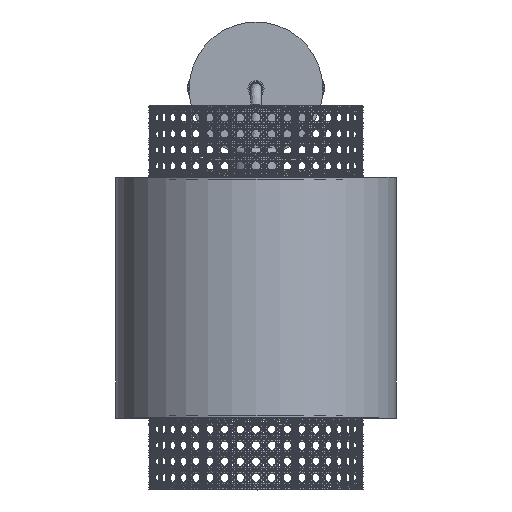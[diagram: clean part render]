
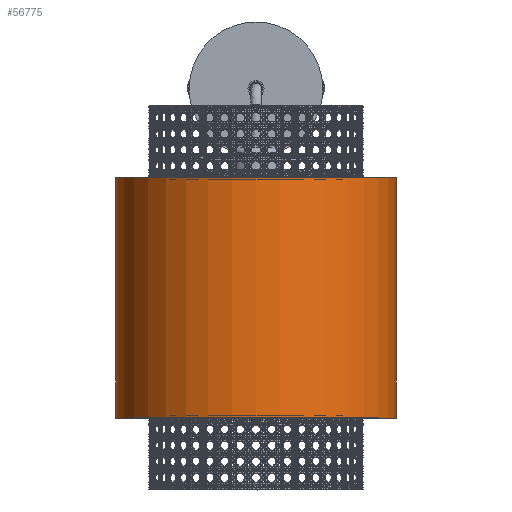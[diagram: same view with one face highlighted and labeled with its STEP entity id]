
A CAD part, top view. The second image highlights one B-rep face of the part: STEP entity #56775.
In plain terms, the highlighted cylindrical face has radius 105 mm (diameter 210 mm), a full revolution.
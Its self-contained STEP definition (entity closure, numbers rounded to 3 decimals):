
#7639=LINE('',#162003,#10107);
#10107=VECTOR('',#71685,105.);
#12071=CYLINDRICAL_SURFACE('',#61886,105.);
#14588=FACE_OUTER_BOUND('',#18282,.T.);
#18282=EDGE_LOOP('',(#45991,#45992,#45993,#45994));
#21572=CIRCLE('',#61882,105.);
#21575=CIRCLE('',#61887,105.);
#25842=VERTEX_POINT('',#161993);
#25845=VERTEX_POINT('',#162002);
#33052=EDGE_CURVE('',#25842,#25842,#21572,.T.);
#33056=EDGE_CURVE('',#25842,#25845,#7639,.T.);
#33057=EDGE_CURVE('',#25845,#25845,#21575,.T.);
#45991=ORIENTED_EDGE('',*,*,#33052,.T.);
#45992=ORIENTED_EDGE('',*,*,#33056,.T.);
#45993=ORIENTED_EDGE('',*,*,#33057,.T.);
#45994=ORIENTED_EDGE('',*,*,#33056,.F.);
#56775=ADVANCED_FACE('',(#14588),#12071,.T.);
#61882=AXIS2_PLACEMENT_3D('',#161994,#71674,#71675);
#61886=AXIS2_PLACEMENT_3D('',#162001,#71683,#71684);
#61887=AXIS2_PLACEMENT_3D('',#162004,#71686,#71687);
#71674=DIRECTION('center_axis',(0.,-1.,0.));
#71675=DIRECTION('ref_axis',(1.,0.,0.));
#71683=DIRECTION('center_axis',(0.,1.,0.));
#71684=DIRECTION('ref_axis',(1.,0.,0.));
#71685=DIRECTION('',(0.,-1.,0.));
#71686=DIRECTION('center_axis',(0.,1.,0.));
#71687=DIRECTION('ref_axis',(1.,0.,0.));
#161993=CARTESIAN_POINT('',(-105.,247.,0.));
#161994=CARTESIAN_POINT('Origin',(0.,247.,0.));
#162001=CARTESIAN_POINT('Origin',(0.,47.,0.));
#162002=CARTESIAN_POINT('',(-105.,67.,0.));
#162003=CARTESIAN_POINT('',(-105.,47.,0.));
#162004=CARTESIAN_POINT('Origin',(0.,67.,0.));
